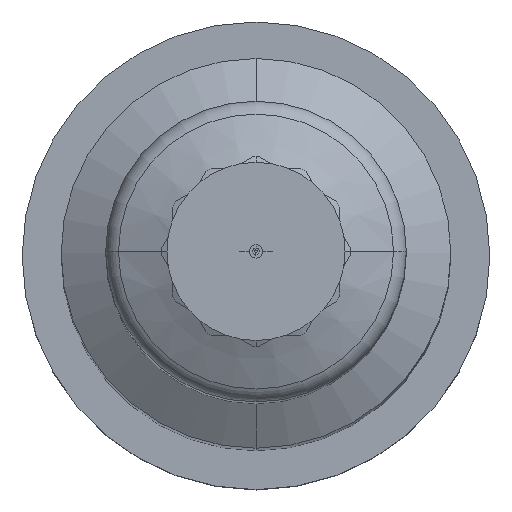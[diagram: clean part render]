
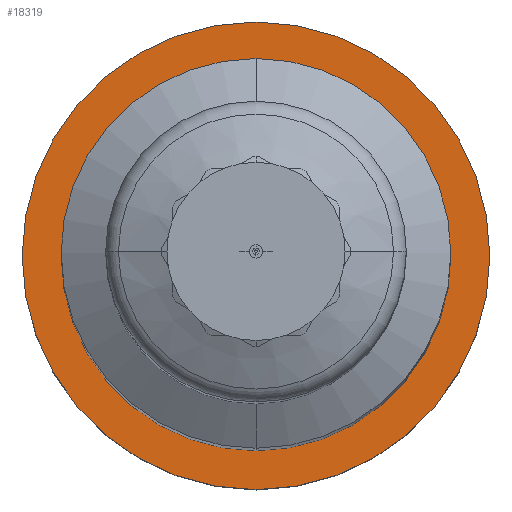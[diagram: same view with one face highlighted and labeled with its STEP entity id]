
A CAD part, top view. The second image highlights one B-rep face of the part: STEP entity #18319.
In plain terms, the highlighted planar face has unit normal (0, 0, 1).
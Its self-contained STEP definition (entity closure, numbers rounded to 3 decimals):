
#1526 = CARTESIAN_POINT ( 'NONE',  ( 21., 0., 15. ) ) ;
#1736 = DIRECTION ( 'NONE',  ( 0., 0., -1. ) ) ;
#2805 = FACE_OUTER_BOUND ( 'NONE', #27105, .T. ) ;
#3145 = FACE_BOUND ( 'NONE', #15962, .T. ) ;
#3171 = ORIENTED_EDGE ( 'NONE', *, *, #8658, .F. ) ;
#4842 = CIRCLE ( 'NONE', #14178, 21. ) ;
#4894 = ORIENTED_EDGE ( 'NONE', *, *, #25577, .F. ) ;
#5335 = VERTEX_POINT ( 'NONE', #18726 ) ;
#5353 = DIRECTION ( 'NONE',  ( -1., 0., 0. ) ) ;
#5421 = CARTESIAN_POINT ( 'NONE',  ( 0., 17.5, 15. ) ) ;
#6026 = DIRECTION ( 'NONE',  ( 0., 0., 1. ) ) ;
#6293 = DIRECTION ( 'NONE',  ( 1., 0., 0. ) ) ;
#6295 = AXIS2_PLACEMENT_3D ( 'NONE', #7595, #26830, #5353 ) ;
#7595 = CARTESIAN_POINT ( 'NONE',  ( 0., 0., 15. ) ) ;
#7617 = CIRCLE ( 'NONE', #10223, 17.5 ) ;
#8303 = EDGE_CURVE ( 'NONE', #19438, #24874, #7617, .T. ) ;
#8658 = EDGE_CURVE ( 'NONE', #24874, #19438, #24796, .T. ) ;
#8910 = VERTEX_POINT ( 'NONE', #1526 ) ;
#10223 = AXIS2_PLACEMENT_3D ( 'NONE', #20828, #6026, #16616 ) ;
#12620 = CARTESIAN_POINT ( 'NONE',  ( 0., -17.5, 15. ) ) ;
#13198 = CIRCLE ( 'NONE', #23441, 21. ) ;
#14178 = AXIS2_PLACEMENT_3D ( 'NONE', #21197, #1736, #21091 ) ;
#15962 = EDGE_LOOP ( 'NONE', ( #3171, #22081 ) ) ;
#15981 = ORIENTED_EDGE ( 'NONE', *, *, #20269, .F. ) ;
#16616 = DIRECTION ( 'NONE',  ( -1., 0., 0. ) ) ;
#18319 = ADVANCED_FACE ( 'NONE', ( #3145, #2805 ), #20932, .T. ) ;
#18726 = CARTESIAN_POINT ( 'NONE',  ( -21., 0., 15. ) ) ;
#18970 = DIRECTION ( 'NONE',  ( 0., 0., 1. ) ) ;
#19438 = VERTEX_POINT ( 'NONE', #12620 ) ;
#20269 = EDGE_CURVE ( 'NONE', #5335, #8910, #4842, .T. ) ;
#20828 = CARTESIAN_POINT ( 'NONE',  ( 0., 0., 15. ) ) ;
#20932 = PLANE ( 'NONE',  #21655 ) ;
#21091 = DIRECTION ( 'NONE',  ( 1., 0., 0. ) ) ;
#21197 = CARTESIAN_POINT ( 'NONE',  ( 0., 0., 15. ) ) ;
#21229 = DIRECTION ( 'NONE',  ( -1., 0., 0. ) ) ;
#21655 = AXIS2_PLACEMENT_3D ( 'NONE', #23430, #18970, #21229 ) ;
#22081 = ORIENTED_EDGE ( 'NONE', *, *, #8303, .F. ) ;
#23430 = CARTESIAN_POINT ( 'NONE',  ( 13.5, 0., 15. ) ) ;
#23441 = AXIS2_PLACEMENT_3D ( 'NONE', #23500, #25756, #6293 ) ;
#23500 = CARTESIAN_POINT ( 'NONE',  ( 0., 0., 15. ) ) ;
#24796 = CIRCLE ( 'NONE', #6295, 17.5 ) ;
#24874 = VERTEX_POINT ( 'NONE', #5421 ) ;
#25577 = EDGE_CURVE ( 'NONE', #8910, #5335, #13198, .T. ) ;
#25756 = DIRECTION ( 'NONE',  ( 0., 0., -1. ) ) ;
#26830 = DIRECTION ( 'NONE',  ( 0., 0., 1. ) ) ;
#27105 = EDGE_LOOP ( 'NONE', ( #4894, #15981 ) ) ;
